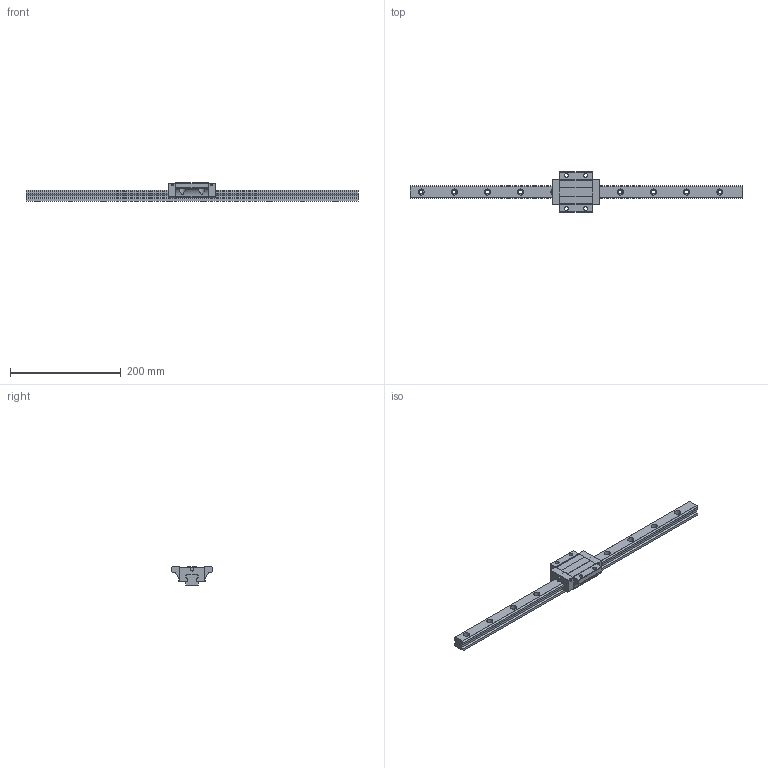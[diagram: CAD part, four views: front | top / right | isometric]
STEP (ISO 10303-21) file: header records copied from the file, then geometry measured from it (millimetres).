
FILE_DESCRIPTION (( 'STEP AP203' ), '1' );
FILE_NAME ('TRS25FN-SU.STEP', '2024-06-26T03:42:29', ( '' ), ( '' ), 'SwSTEP 2.0', 'SolidWorks 2022', '' );
FILE_SCHEMA (( 'CONFIG_CONTROL_DESIGN' ));
Length unit declared in the file: millimetre
Products named in the file (1): TRS25FN-SU
Bounding box: 600 x 73 x 33 mm (x, y, z)
Volume: 330904.3 mm3; surface area: 80712.7 mm2
Topology: 2 solids, 2 shells, 230 faces, 614 edges, 400 vertices
Faces by surface type: cylinder 126, plane 100, sphere 4
Entity records: 7971 total; most frequent: CARTESIAN_POINT 1955, DIRECTION 1274, ORIENTED_EDGE 1220, EDGE_CURVE 610, AXIS2_PLACEMENT_3D 459, VERTEX_POINT 400, LINE 356, VECTOR 356
